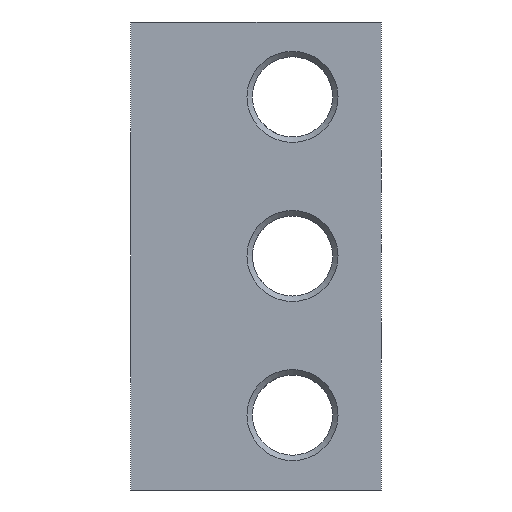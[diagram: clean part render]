
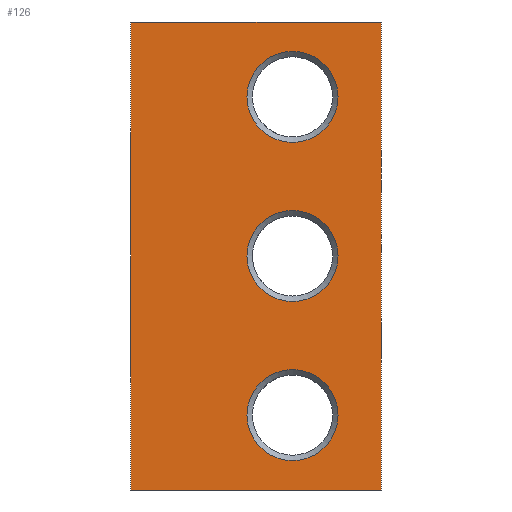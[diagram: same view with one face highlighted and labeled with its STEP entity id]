
A CAD part, left-side view. The second image highlights one B-rep face of the part: STEP entity #126.
In plain terms, the highlighted planar face has unit normal (-1, 0, 0).
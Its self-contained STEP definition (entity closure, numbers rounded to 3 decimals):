
#126 = ADVANCED_FACE( '', ( #360, #361, #362, #363 ), #364, .F. );
#360 = FACE_BOUND( '', #673, .T. );
#361 = FACE_BOUND( '', #674, .T. );
#362 = FACE_BOUND( '', #675, .T. );
#363 = FACE_OUTER_BOUND( '', #676, .T. );
#364 = PLANE( '', #677 );
#673 = EDGE_LOOP( '', ( #1135 ) );
#674 = EDGE_LOOP( '', ( #1136 ) );
#675 = EDGE_LOOP( '', ( #1137 ) );
#676 = EDGE_LOOP( '', ( #1138, #1139, #1140, #1141 ) );
#677 = AXIS2_PLACEMENT_3D( '', #1142, #1143, #1144 );
#1135 = ORIENTED_EDGE( '', *, *, #1477, .T. );
#1136 = ORIENTED_EDGE( '', *, *, #1478, .T. );
#1137 = ORIENTED_EDGE( '', *, *, #1479, .T. );
#1138 = ORIENTED_EDGE( '', *, *, #1461, .F. );
#1139 = ORIENTED_EDGE( '', *, *, #1473, .F. );
#1140 = ORIENTED_EDGE( '', *, *, #1469, .F. );
#1141 = ORIENTED_EDGE( '', *, *, #1475, .F. );
#1142 = CARTESIAN_POINT( '', ( 0., 0., 0. ) );
#1143 = DIRECTION( '', ( 1., 0., 0. ) );
#1144 = DIRECTION( '', ( 0., 0., -1. ) );
#1461 = EDGE_CURVE( '', #1699, #1700, #1701, .T. );
#1469 = EDGE_CURVE( '', #1715, #1716, #1717, .T. );
#1473 = EDGE_CURVE( '', #1716, #1699, #1723, .T. );
#1475 = EDGE_CURVE( '', #1700, #1715, #1725, .T. );
#1477 = EDGE_CURVE( '', #1727, #1727, #1728, .T. );
#1478 = EDGE_CURVE( '', #1729, #1729, #1730, .T. );
#1479 = EDGE_CURVE( '', #1731, #1731, #1732, .T. );
#1699 = VERTEX_POINT( '', #2587 );
#1700 = VERTEX_POINT( '', #2588 );
#1701 = LINE( '', #2589, #2590 );
#1715 = VERTEX_POINT( '', #2607 );
#1716 = VERTEX_POINT( '', #2608 );
#1717 = LINE( '', #2609, #2610 );
#1723 = LINE( '', #2619, #2620 );
#1725 = LINE( '', #2623, #2624 );
#1727 = VERTEX_POINT( '', #2627 );
#1728 = CIRCLE( '', #2628, 4.864 );
#1729 = VERTEX_POINT( '', #2629 );
#1730 = CIRCLE( '', #2630, 4.864 );
#1731 = VERTEX_POINT( '', #2631 );
#1732 = CIRCLE( '', #2632, 4.864 );
#2587 = CARTESIAN_POINT( '', ( 0., 0., -25. ) );
#2588 = CARTESIAN_POINT( '', ( 0., 0., 25. ) );
#2589 = CARTESIAN_POINT( '', ( 0., 0., -25. ) );
#2590 = VECTOR( '', #2904, 1000. );
#2607 = CARTESIAN_POINT( '', ( 0., -26.8, 25. ) );
#2608 = CARTESIAN_POINT( '', ( 0., -26.8, -25. ) );
#2609 = CARTESIAN_POINT( '', ( 0., -26.8, 25. ) );
#2610 = VECTOR( '', #2920, 1000. );
#2619 = CARTESIAN_POINT( '', ( 0., -26.8, -25. ) );
#2620 = VECTOR( '', #2924, 1000. );
#2623 = CARTESIAN_POINT( '', ( 0., 0., 25. ) );
#2624 = VECTOR( '', #2926, 1000. );
#2627 = CARTESIAN_POINT( '', ( 0., -17.3, -21.864 ) );
#2628 = AXIS2_PLACEMENT_3D( '', #2928, #2929, #2930 );
#2629 = CARTESIAN_POINT( '', ( 0., -17.3, 12.136 ) );
#2630 = AXIS2_PLACEMENT_3D( '', #2931, #2932, #2933 );
#2631 = CARTESIAN_POINT( '', ( 0., -17.3, -4.864 ) );
#2632 = AXIS2_PLACEMENT_3D( '', #2934, #2935, #2936 );
#2904 = DIRECTION( '', ( 0., 0., 1. ) );
#2920 = DIRECTION( '', ( 0., 0., -1. ) );
#2924 = DIRECTION( '', ( 0., 1., 0. ) );
#2926 = DIRECTION( '', ( 0., -1., 0. ) );
#2928 = CARTESIAN_POINT( '', ( 0., -17.3, -17. ) );
#2929 = DIRECTION( '', ( 1., 0., 0. ) );
#2930 = DIRECTION( '', ( 0., 0., -1. ) );
#2931 = CARTESIAN_POINT( '', ( 0., -17.3, 17. ) );
#2932 = DIRECTION( '', ( 1., 0., 0. ) );
#2933 = DIRECTION( '', ( 0., 0., -1. ) );
#2934 = CARTESIAN_POINT( '', ( 0., -17.3, 0. ) );
#2935 = DIRECTION( '', ( 1., 0., 0. ) );
#2936 = DIRECTION( '', ( 0., 0., -1. ) );
